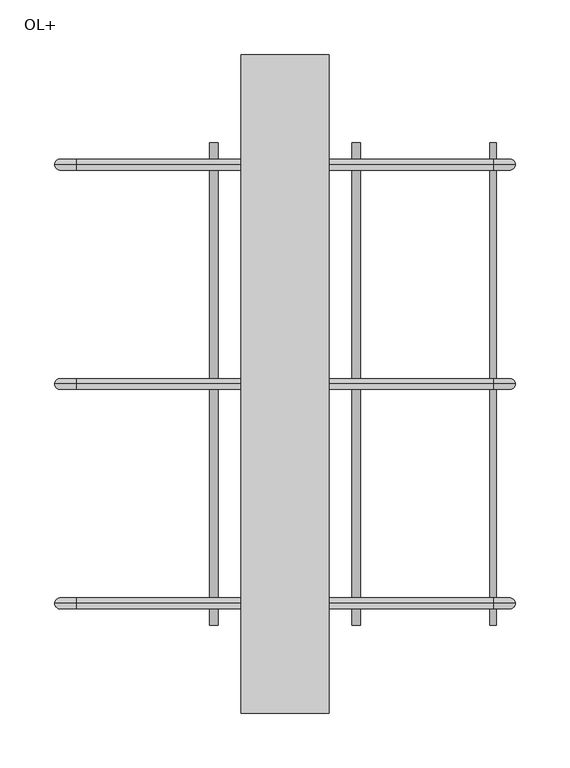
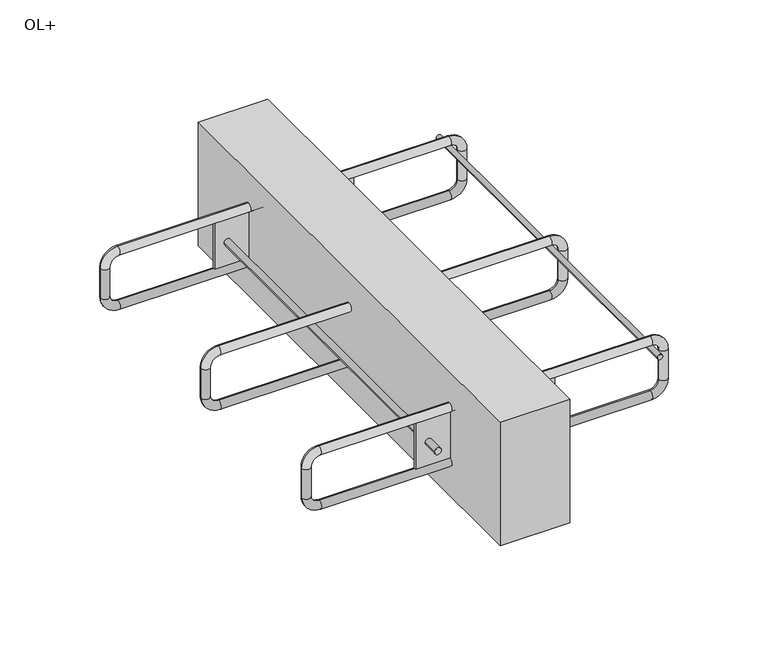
"""IFC4 building model written with IfcOpenShell, lengths in millimetres: fastener geometry, ACINOXplus_Typenreihe_UL-OL : OL+."""

import ifcopenshell
import ifcopenshell.guid

model = None  # the IFC model being written
_history = None  # IfcOwnerHistory: only IFC2X3 demands one
_inside = {}  # id of a spatial element -> (the spatial element, [elements in it])
_under = {}  # id of a project, library or spatial element -> (it, [spatial elements below it])
_declared = {}  # id of a project -> (the project, [libraries it declares])
_typed = {}  # id of a type object -> (the type object, [elements of that type])
_made_of = {}  # id of a material, layer set ... -> (it, [elements and type objects made of it])


def new_model(schema):
    """Start an empty IFC model of exactly this schema.

    Asked for "IFC4X3", IfcOpenShell would pick the latest addendum, in which some entities
    have other attributes; the version numbers below select the first issue.
    IFC2X3 requires an IfcOwnerHistory on every rooted entity: one is made here for all.
    """
    global model, _history
    if schema == "IFC4X3":
        model = ifcopenshell.file(schema_version=(4, 3, 0, 0))
    else:
        model = ifcopenshell.file(schema=schema)
    _inside.clear()
    _under.clear()
    _declared.clear()
    _typed.clear()
    _made_of.clear()
    _history = None
    if model.schema == "IFC2X3":
        org = make("IfcOrganization", Name="unknown")
        user = make(
            "IfcPersonAndOrganization",
            ThePerson=make("IfcPerson", FamilyName="unknown"),
            TheOrganization=org,
        )
        app = make(
            "IfcApplication",
            ApplicationDeveloper=org,
            Version="unknown",
            ApplicationFullName="unknown",
            ApplicationIdentifier="unknown",
        )
        _history = make(
            "IfcOwnerHistory",
            OwningUser=user,
            OwningApplication=app,
            ChangeAction="ADDED",
            CreationDate=0,
        )
    return model


def make(cls, **values):
    """One entity of the class cls with the attributes given. An attribute that is None is left unset."""
    return model.create_entity(
        cls, **{name: value for name, value in values.items() if value is not None}
    )


def rooted(cls, **values):
    """An entity with a GlobalId (a new one), such as an element, a storey or a relation."""
    return make(cls, GlobalId=ifcopenshell.guid.new(), OwnerHistory=_history, **values)


def si_unit(unit_type, name, prefix=None):
    """IfcSIUnit, for example si_unit("LENGTHUNIT", "METRE", prefix="MILLI")."""
    return make("IfcSIUnit", UnitType=unit_type, Prefix=prefix, Name=name)


def assignment(units):
    """IfcUnitAssignment: the units of a project."""
    return None if units is None else make("IfcUnitAssignment", Units=units)


def point(xyz):
    """IfcCartesianPoint."""
    return None if xyz is None else make("IfcCartesianPoint", Coordinates=xyz)


def direction(xyz):
    """IfcDirection."""
    return None if xyz is None else make("IfcDirection", DirectionRatios=xyz)


def frame(location, z_axis=None, x_axis=None):
    """IfcAxis2Placement3D, a coordinate frame: its origin and axes. An axis left out is left unset."""
    return make(
        "IfcAxis2Placement3D",
        Location=point(location),
        Axis=direction(z_axis),
        RefDirection=direction(x_axis),
    )


def frame_2d(location, x_axis=None):
    """IfcAxis2Placement2D, a coordinate frame in the plane: its origin and x axis."""
    return make(
        "IfcAxis2Placement2D", Location=point(location), RefDirection=direction(x_axis)
    )


def origin():
    """The frame at (0, 0, 0) with its axes left unset."""
    return frame((0.0, 0.0, 0.0))


def place(relative_to, where):
    """IfcLocalPlacement: puts the frame where relative to a parent placement (None: the world)."""
    return make(
        "IfcLocalPlacement", PlacementRelTo=relative_to, RelativePlacement=where
    )


def context(
    kind, dimensions, precision=None, world=None, true_north=None, identifier=None
):
    """IfcGeometricRepresentationContext, for example the 3D "Model" context."""
    return make(
        "IfcGeometricRepresentationContext",
        ContextIdentifier=identifier,
        ContextType=kind,
        CoordinateSpaceDimension=dimensions,
        Precision=precision,
        WorldCoordinateSystem=world,
        TrueNorth=true_north,
    )


def project(units=None, contexts=None):
    """IfcProject with its units and contexts."""
    return rooted(
        "IfcProject",
        Name="project",
        RepresentationContexts=contexts,
        UnitsInContext=assignment(units),
    )


def spatial(cls, under=None, at=None, **own):
    """A site, building, storey or space (cls), placed at a placement, below another one or the project."""
    s = rooted(cls, ObjectPlacement=at, **own)
    if under is not None:
        _under.setdefault(under.id(), (under, []))[1].append(s)
    return s


def polyline(points):
    """IfcPolyline through the points."""
    return make("IfcPolyline", Points=[point(p) for p in points])


def circle_curve(where, radius):
    """IfcCircle in the frame where."""
    return make("IfcCircle", Position=where, Radius=radius)


def ellipse_curve(where, semi_axis1, semi_axis2):
    """IfcEllipse in the frame where."""
    return make(
        "IfcEllipse", Position=where, SemiAxis1=semi_axis1, SemiAxis2=semi_axis2
    )


def trimmed(basis, trim1, trim2, sense, master):
    """IfcTrimmedCurve: the piece of a basis curve between two trims."""
    return make(
        "IfcTrimmedCurve",
        BasisCurve=basis,
        Trim1=trim1,
        Trim2=trim2,
        SenseAgreement=sense,
        MasterRepresentation=master,
    )


def segment(curve, same_sense, transition):
    """IfcCompositeCurveSegment."""
    return make(
        "IfcCompositeCurveSegment",
        Transition=transition,
        SameSense=same_sense,
        ParentCurve=curve,
    )


def composite_curve(segments, self_intersect=None):
    """IfcCompositeCurve: segments joined end to end."""
    return make("IfcCompositeCurve", Segments=segments, SelfIntersect=self_intersect)


def outline(outer, holes=None, kind="AREA"):
    """IfcArbitraryClosedProfileDef: a profile drawn as a closed curve; with holes, ...WithVoids."""
    if holes is None:
        return make("IfcArbitraryClosedProfileDef", ProfileType=kind, OuterCurve=outer)
    return make(
        "IfcArbitraryProfileDefWithVoids",
        ProfileType=kind,
        OuterCurve=outer,
        InnerCurves=holes,
    )


def extrude(swept, where, along, depth):
    """IfcExtrudedAreaSolid: the profile swept, set in the frame where, extruded along a direction by depth."""
    return make(
        "IfcExtrudedAreaSolid",
        SweptArea=swept,
        Position=where,
        ExtrudedDirection=direction(along),
        Depth=depth,
    )


def shape(context_of_items, identifier, shape_type, items):
    """IfcShapeRepresentation: the items that make up one representation, for example the "Body"."""
    return make(
        "IfcShapeRepresentation",
        ContextOfItems=context_of_items,
        RepresentationIdentifier=identifier,
        RepresentationType=shape_type,
        Items=items,
    )


def source(mapping_origin, context_of_items, identifier, shape_type, items):
    """IfcRepresentationMap: a shape defined once, which mapped items show again and again."""
    return make(
        "IfcRepresentationMap",
        MappingOrigin=mapping_origin,
        MappedRepresentation=shape(context_of_items, identifier, shape_type, items),
    )


def transform(
    local_origin,
    x_axis=None,
    y_axis=None,
    z_axis=None,
    scale=None,
    scale2=None,
    scale3=None,
    uniform=True,
):
    """IfcCartesianTransformationOperator3D, or its non-uniform kind. x_axis, y_axis, z_axis: its Axis1, 2, 3."""
    if uniform:
        return make(
            "IfcCartesianTransformationOperator3D",
            Axis1=direction(x_axis),
            Axis2=direction(y_axis),
            LocalOrigin=point(local_origin),
            Scale=scale,
            Axis3=direction(z_axis),
        )
    return make(
        "IfcCartesianTransformationOperator3DnonUniform",
        Axis1=direction(x_axis),
        Axis2=direction(y_axis),
        LocalOrigin=point(local_origin),
        Scale=scale,
        Axis3=direction(z_axis),
        Scale2=scale2,
        Scale3=scale3,
    )


def mapped(mapping_source, mapping_target):
    """IfcMappedItem: shows the shape of a source again, moved by a transform."""
    return make(
        "IfcMappedItem", MappingSource=mapping_source, MappingTarget=mapping_target
    )


def made_of(thing, what):
    """Note that an element or type object is made of a material, layer set ...; save() writes the relation."""
    if what is not None:
        _made_of.setdefault(what.id(), (what, []))[1].append(thing)
    return thing


def element(
    cls,
    number,
    at=None,
    inside=None,
    cuts=None,
    type_object=None,
    material=None,
    context=None,
    identifier="Body",
    shape_type=None,
    held_by="IfcProductDefinitionShape",
    body=None,
    shapes=None,
    **own,
):
    """One element of the class cls, such as IfcWall. Its Tag is "e" and its number.

    at: its placement. inside: the storey or other place that contains it. cuts: it is an
    opening in that element (IfcRelVoidsElement). A single representation is given by context,
    identifier, shape_type and body (its items); several are given by shapes. held_by: the class
    of the entity that holds the representations. save() writes the other relations.
    """
    e = rooted(cls, Tag="e%d" % number, ObjectPlacement=at, **own)
    if body is not None:
        shapes = [shape(context, identifier, shape_type, body)]
    if shapes is not None:
        e.Representation = make(held_by, Representations=shapes)
    if inside is not None:
        _inside.setdefault(inside.id(), (inside, []))[1].append(e)
    if cuts is not None:
        rooted(
            "IfcRelVoidsElement", RelatingBuildingElement=cuts, RelatedOpeningElement=e
        )
    if type_object is not None:
        _typed.setdefault(type_object.id(), (type_object, []))[1].append(e)
    return made_of(e, material)


def aggregate(whole, parts):
    """IfcRelAggregates: a whole, such as a stair, and the parts it consists of."""
    return rooted("IfcRelAggregates", RelatingObject=whole, RelatedObjects=parts)


def save(model, path):
    """Write the relations noted so far, then the file.

    IfcRelAggregates (storeys below a building ...), IfcRelContainedInSpatialStructure (elements
    in a storey), IfcRelDefinesByType, IfcRelAssociatesMaterial and IfcRelDeclares: one each for
    every whole, place, type object, material and project.
    """
    for whole, parts in _under.values():
        aggregate(whole, parts)
    for where, things in _inside.values():
        rooted(
            "IfcRelContainedInSpatialStructure",
            RelatedElements=things,
            RelatingStructure=where,
        )
    for kind, things in _typed.values():
        rooted("IfcRelDefinesByType", RelatedObjects=things, RelatingType=kind)
    for what, things in _made_of.values():
        rooted("IfcRelAssociatesMaterial", RelatedObjects=things, RelatingMaterial=what)
    for by, libraries in _declared.values():
        rooted("IfcRelDeclares", RelatingContext=by, RelatedDefinitions=libraries)
    model.write(path)


def cylinder_surface(at, radius):
    """IfcCylindricalSurface: all points at the distance radius from the z axis of the frame at."""
    return make("IfcCylindricalSurface", Position=at, Radius=radius)


def revolved_surface(curve, axis_point, axis_direction):
    """IfcSurfaceOfRevolution: the curve turned about the line through axis_point along axis_direction."""
    return make(
        "IfcSurfaceOfRevolution",
        SweptCurve=make("IfcArbitraryOpenProfileDef", ProfileType="CURVE", Curve=curve),
        AxisPosition=make("IfcAxis1Placement", Location=point(axis_point), Axis=direction(axis_direction)),
    )


def advanced_brep(points, edges, surfaces, faces):
    """IfcAdvancedBrep: a solid bounded by faces that lie on surfaces and meet in shared edges.

    An edge is (start, end): straight between two places in points (the first is 0);
    or (start, end, curve); or (start, end, curve, False) where it runs against its curve.
    A face is (place in surfaces, loops), or (place, loops, False) where it looks against
    its surface's normal. A loop lists edges by number (the first is 1), with a minus sign
    where the edge is run from its end to its start. The first loop is the outer one.
    """
    corners = [point(p) for p in points]
    vertices = [make("IfcVertexPoint", VertexGeometry=c) for c in corners]
    made = []
    for start, end, *more in edges:
        made.append(
            make(
                "IfcEdgeCurve",
                EdgeStart=vertices[start],
                EdgeEnd=vertices[end],
                EdgeGeometry=more[0] if more else make("IfcPolyline", Points=[corners[start], corners[end]]),
                SameSense=more[1] if len(more) > 1 else True,
            )
        )
    hull = []
    for where, loops, *sense in faces:
        bounds = []
        for j, loop in enumerate(loops):
            ring = [make("IfcOrientedEdge", EdgeElement=made[abs(k) - 1], Orientation=k > 0) for k in loop]
            bounds.append(
                make(
                    "IfcFaceOuterBound" if j == 0 else "IfcFaceBound",
                    Bound=make("IfcEdgeLoop", EdgeList=ring),
                    Orientation=True,
                )
            )
        hull.append(make("IfcAdvancedFace", Bounds=bounds, FaceSurface=surfaces[where], SameSense=sense[0] if sense else True))
    return make("IfcAdvancedBrep", Outer=make("IfcClosedShell", CfsFaces=hull))


def ol_8fdc4615(model_context):
    return source(origin(), model_context, "Body", "SolidModel", [
        extrude(outline(composite_curve([segment(trimmed(circle_curve(frame_2d((-50.0, 190.0)), 3.0), [point((-50.0, 193.0))], [point((-50.0, 187.0))], False, "CARTESIAN"), True, "CONTINUOUS"), segment(trimmed(circle_curve(frame_2d((-50.0, 190.0)), 3.0), [point((-50.0, 187.0))], [point((-50.0, 193.0))], False, "CARTESIAN"), True, "CONTINUOUS")], self_intersect=False)), frame((0.0, -220.0, 0.0), z_axis=(0.0, 1.0, 0.0), x_axis=(0.0, 0.0, 1.0)), (0.0, 0.0, 1.0), 440.0),
        extrude(outline(polyline([(40.0, 300.0), (40.0, -300.0), (-40.0, -300.0), (-40.0, 300.0), (40.0, 300.0)])), frame((0.0, 0.0, -150.0), z_axis=(0.0, 0.0, 1.0), x_axis=(1.0, 0.0, 0.0)), (0.0, 0.0, 1.0), 150.0),
        extrude(outline(composite_curve([segment(trimmed(circle_curve(frame_2d((-75.0, -65.0)), 4.0), [point((-75.0, -61.0))], [point((-75.0, -69.0))], False, "CARTESIAN"), True, "CONTINUOUS"), segment(trimmed(circle_curve(frame_2d((-75.0, -65.0)), 4.0), [point((-75.0, -69.0))], [point((-75.0, -61.0))], False, "CARTESIAN"), True, "CONTINUOUS")], self_intersect=False)), frame((0.0, -220.0, 0.0), z_axis=(0.0, 1.0, 0.0), x_axis=(0.0, 0.0, 1.0)), (0.0, 0.0, 1.0), 440.0),
        extrude(outline(composite_curve([segment(trimmed(circle_curve(frame_2d((-75.0, 65.0)), 4.0), [point((-75.0, 69.0))], [point((-75.0, 61.0))], False, "CARTESIAN"), True, "CONTINUOUS"), segment(trimmed(circle_curve(frame_2d((-75.0, 65.0)), 4.0), [point((-75.0, 61.0))], [point((-75.0, 69.0))], False, "CARTESIAN"), True, "CONTINUOUS")], self_intersect=False)), frame((0.0, -220.0, 0.0), z_axis=(0.0, 1.0, 0.0), x_axis=(0.0, 0.0, 1.0)), (0.0, 0.0, 1.0), 440.0),
        extrude(outline(polyline([(80.0, -198.5), (80.0, -201.5), (-80.0, -201.5), (-80.0, -198.5), (80.0, -198.5)])), frame((0.0, 0.0, -103.0), z_axis=(0.0, 0.0, 1.0), x_axis=(1.0, 0.0, 0.0)), (0.0, 0.0, 1.0), 56.0),
        extrude(outline(polyline([(80.0, 201.5), (80.0, 198.5), (-80.0, 198.5), (-80.0, 201.5), (80.0, 201.5)])), frame((0.0, 0.0, -103.0), z_axis=(0.0, 0.0, 1.0), x_axis=(1.0, 0.0, 0.0)), (0.0, 0.0, 1.0), 56.0),
        advanced_brep(
        [(190.0, 0.0, -47.0), (190.0, 0.0, -37.0), (-190.0, 0.0, -37.0), (-190.0, 0.0, -47.0), (-200.0, 0.0, -57.0), (-210.0, 0.0, -57.0), (-210.0, 0.0, -93.0), (-200.0, 0.0, -93.0), (-190.0, 0.0, -103.0), (-190.0, 0.0, -113.0), (190.0, 0.0, -113.0), (190.0, 0.0, -103.0), (200.0, 0.0, -93.0), (210.0, 0.0, -93.0), (210.0, 0.0, -57.0), (200.0, 0.0, -57.0)],
        [
            (0, 1, circle_curve(frame((190.0, 0.0, -42.0), z_axis=(-1.0, 0.0, 0.0), x_axis=(0.0, 0.0, -1.0)), 5.0)),
            (1, 2),
            (2, 3, circle_curve(frame((-190.0, 0.0, -42.0), z_axis=(1.0, 0.0, 0.0), x_axis=(0.0, 0.0, -1.0)), 5.0)),
            (3, 0),
            (1, 0, circle_curve(frame((190.0, 0.0, -42.0), z_axis=(-1.0, 0.0, 0.0), x_axis=(0.0, 0.0, -1.0)), 5.0)),
            (3, 2, circle_curve(frame((-190.0, 0.0, -42.0), z_axis=(1.0, 0.0, 0.0), x_axis=(0.0, 0.0, -1.0)), 5.0)),
            (4, 3, circle_curve(frame((-190.0, 0.0, -57.0), z_axis=(0.0, 1.0, 0.0), x_axis=(0.0, 0.0, 1.0)), 10.0)),
            (2, 5, circle_curve(frame((-190.0, 0.0, -57.0), z_axis=(0.0, -1.0, 0.0), x_axis=(0.0, 0.0, 1.0)), 20.0)),
            (5, 4, circle_curve(frame((-205.0, 0.0, -57.0), z_axis=(0.0, 0.0, 1.0), x_axis=(1.0, 0.0, 0.0)), 5.0)),
            (4, 5, circle_curve(frame((-205.0, 0.0, -57.0), z_axis=(0.0, 0.0, 1.0), x_axis=(1.0, 0.0, 0.0)), 5.0)),
            (5, 6),
            (6, 7, circle_curve(frame((-205.0, 0.0, -93.0), z_axis=(0.0, 0.0, 1.0), x_axis=(1.0, 0.0, 0.0)), 5.0)),
            (7, 4),
            (7, 6, circle_curve(frame((-205.0, 0.0, -93.0), z_axis=(0.0, 0.0, 1.0), x_axis=(1.0, 0.0, 0.0)), 5.0)),
            (8, 7, circle_curve(frame((-190.0, 0.0, -93.0), z_axis=(0.0, 1.0, 0.0), x_axis=(-1.0, 0.0, 0.0)), 10.0)),
            (6, 9, circle_curve(frame((-190.0, 0.0, -93.0), z_axis=(0.0, -1.0, 0.0), x_axis=(-1.0, 0.0, 0.0)), 20.0)),
            (9, 8, circle_curve(frame((-190.0, 0.0, -108.0), z_axis=(-1.0, 0.0, 0.0), x_axis=(0.0, 0.0, 1.0)), 5.0)),
            (8, 9, circle_curve(frame((-190.0, 0.0, -108.0), z_axis=(-1.0, 0.0, 0.0), x_axis=(0.0, 0.0, 1.0)), 5.0)),
            (9, 10),
            (10, 11, circle_curve(frame((190.0, 0.0, -108.0), z_axis=(-1.0, 0.0, 0.0), x_axis=(0.0, 0.0, 1.0)), 5.0)),
            (11, 8),
            (11, 10, circle_curve(frame((190.0, 0.0, -108.0), z_axis=(-1.0, 0.0, 0.0), x_axis=(0.0, 0.0, 1.0)), 5.0)),
            (12, 11, circle_curve(frame((190.0, 0.0, -93.0), z_axis=(0.0, 1.0, 0.0), x_axis=(0.0, 0.0, -1.0)), 10.0)),
            (10, 13, circle_curve(frame((190.0, 0.0, -93.0), z_axis=(0.0, -1.0, 0.0), x_axis=(0.0, 0.0, -1.0)), 20.0)),
            (13, 12, circle_curve(frame((205.0, 0.0, -93.0), z_axis=(0.0, 0.0, -1.0), x_axis=(-1.0, 0.0, 0.0)), 5.0)),
            (12, 13, circle_curve(frame((205.0, 0.0, -93.0), z_axis=(0.0, 0.0, -1.0), x_axis=(-1.0, 0.0, 0.0)), 5.0)),
            (13, 14),
            (14, 15, circle_curve(frame((205.0, 0.0, -57.0), z_axis=(0.0, 0.0, -1.0), x_axis=(-1.0, 0.0, 0.0)), 5.0)),
            (15, 12),
            (15, 14, circle_curve(frame((205.0, 0.0, -57.0), z_axis=(0.0, 0.0, -1.0), x_axis=(-1.0, 0.0, 0.0)), 5.0)),
            (0, 15, circle_curve(frame((190.0, 0.0, -57.0), z_axis=(0.0, 1.0, 0.0), x_axis=(1.0, 0.0, 0.0)), 10.0)),
            (14, 1, circle_curve(frame((190.0, 0.0, -57.0), z_axis=(0.0, -1.0, 0.0), x_axis=(1.0, 0.0, 0.0)), 20.0)),
        ],
        [
            cylinder_surface(frame((190.0, 0.0, -42.0), z_axis=(1.0, 0.0, 0.0), x_axis=(0.0, 0.0, -1.0)), 5.0),
            revolved_surface(trimmed(ellipse_curve(frame((-190.0, 0.0, -42.0), z_axis=(1.0, 0.0, 0.0), x_axis=(0.0, 0.0, -1.0)), 5.0, 5.0), [point((-190.0, 0.0, -37.0))], [point((-190.0, 0.0, -47.0))], True, "CARTESIAN"), (-190.0, 0.0, -57.0), (0.0, -1.0, 0.0)),
            revolved_surface(trimmed(ellipse_curve(frame((-190.0, 0.0, -42.0), z_axis=(1.0, 0.0, 0.0), x_axis=(0.0, 0.0, -1.0)), 5.0, 5.0), [point((-190.0, 0.0, -47.0))], [point((-190.0, 0.0, -37.0))], True, "CARTESIAN"), (-190.0, 0.0, -57.0), (0.0, -1.0, 0.0)),
            cylinder_surface(frame((-205.0, 0.0, -57.0), z_axis=(0.0, 0.0, 1.0), x_axis=(1.0, 0.0, 0.0)), 5.0),
            revolved_surface(trimmed(ellipse_curve(frame((-205.0, 0.0, -93.0), z_axis=(0.0, 0.0, 1.0), x_axis=(1.0, 0.0, 0.0)), 5.0, 5.0), [point((-210.0, 0.0, -93.0))], [point((-200.0, 0.0, -93.0))], True, "CARTESIAN"), (-190.0, 0.0, -93.0), (0.0, -1.0, 0.0)),
            revolved_surface(trimmed(ellipse_curve(frame((-205.0, 0.0, -93.0), z_axis=(0.0, 0.0, 1.0), x_axis=(1.0, 0.0, 0.0)), 5.0, 5.0), [point((-200.0, 0.0, -93.0))], [point((-210.0, 0.0, -93.0))], True, "CARTESIAN"), (-190.0, 0.0, -93.0), (0.0, -1.0, 0.0)),
            cylinder_surface(frame((-190.0, 0.0, -108.0), z_axis=(-1.0, 0.0, 0.0), x_axis=(0.0, 0.0, 1.0)), 5.0),
            revolved_surface(trimmed(ellipse_curve(frame((190.0, 0.0, -108.0), z_axis=(-1.0, 0.0, 0.0), x_axis=(0.0, 0.0, 1.0)), 5.0, 5.0), [point((190.0, 0.0, -113.0))], [point((190.0, 0.0, -103.0))], True, "CARTESIAN"), (190.0, 0.0, -93.0), (0.0, -1.0, 0.0)),
            revolved_surface(trimmed(ellipse_curve(frame((190.0, 0.0, -108.0), z_axis=(-1.0, 0.0, 0.0), x_axis=(0.0, 0.0, 1.0)), 5.0, 5.0), [point((190.0, 0.0, -103.0))], [point((190.0, 0.0, -113.0))], True, "CARTESIAN"), (190.0, 0.0, -93.0), (0.0, -1.0, 0.0)),
            cylinder_surface(frame((205.0, 0.0, -93.0), z_axis=(0.0, 0.0, -1.0), x_axis=(-1.0, 0.0, 0.0)), 5.0),
            revolved_surface(trimmed(ellipse_curve(frame((205.0, 0.0, -57.0), z_axis=(0.0, 0.0, -1.0), x_axis=(-1.0, 0.0, 0.0)), 5.0, 5.0), [point((210.0, 0.0, -57.0))], [point((200.0, 0.0, -57.0))], True, "CARTESIAN"), (190.0, 0.0, -57.0), (0.0, -1.0, 0.0)),
            revolved_surface(trimmed(ellipse_curve(frame((205.0, 0.0, -57.0), z_axis=(0.0, 0.0, -1.0), x_axis=(-1.0, 0.0, 0.0)), 5.0, 5.0), [point((200.0, 0.0, -57.0))], [point((210.0, 0.0, -57.0))], True, "CARTESIAN"), (190.0, 0.0, -57.0), (0.0, -1.0, 0.0)),
        ],
        [
            (0, [[1, 2, 3, 4]]),
            (0, [[5, -4, 6, -2]]),
            (1, [[7, -3, 8, 9]]),
            (2, [[-8, -6, -7, 10]]),
            (3, [[-9, 11, 12, 13]]),
            (3, [[-10, -13, 14, -11]]),
            (4, [[15, -12, 16, 17]]),
            (5, [[-16, -14, -15, 18]]),
            (6, [[-17, 19, 20, 21]]),
            (6, [[-18, -21, 22, -19]]),
            (7, [[23, -20, 24, 25]]),
            (8, [[-24, -22, -23, 26]]),
            (9, [[-25, 27, 28, 29]]),
            (9, [[-26, -29, 30, -27]]),
            (10, [[31, -28, 32, -1]]),
            (11, [[-32, -30, -31, -5]]),
        ],
    ),
        advanced_brep(
        [(190.0, 200.0, -47.0), (190.0, 200.0, -37.0), (-190.0, 200.0, -37.0), (-190.0, 200.0, -47.0), (-200.0, 200.0, -57.0), (-210.0, 200.0, -57.0), (-210.0, 200.0, -93.0), (-200.0, 200.0, -93.0), (-190.0, 200.0, -103.0), (-190.0, 200.0, -113.0), (190.0, 200.0, -113.0), (190.0, 200.0, -103.0), (200.0, 200.0, -93.0), (210.0, 200.0, -93.0), (210.0, 200.0, -57.0), (200.0, 200.0, -57.0)],
        [
            (0, 1, circle_curve(frame((190.0, 200.0, -42.0), z_axis=(-1.0, 0.0, 0.0), x_axis=(0.0, 0.0, -1.0)), 5.0)),
            (1, 2),
            (2, 3, circle_curve(frame((-190.0, 200.0, -42.0), z_axis=(1.0, 0.0, 0.0), x_axis=(0.0, 0.0, -1.0)), 5.0)),
            (3, 0),
            (1, 0, circle_curve(frame((190.0, 200.0, -42.0), z_axis=(-1.0, 0.0, 0.0), x_axis=(0.0, 0.0, -1.0)), 5.0)),
            (3, 2, circle_curve(frame((-190.0, 200.0, -42.0), z_axis=(1.0, 0.0, 0.0), x_axis=(0.0, 0.0, -1.0)), 5.0)),
            (4, 3, circle_curve(frame((-190.0, 200.0, -57.0), z_axis=(0.0, 1.0, 0.0), x_axis=(0.0, 0.0, 1.0)), 10.0)),
            (2, 5, circle_curve(frame((-190.0, 200.0, -57.0), z_axis=(0.0, -1.0, 0.0), x_axis=(0.0, 0.0, 1.0)), 20.0)),
            (5, 4, circle_curve(frame((-205.0, 200.0, -57.0), z_axis=(0.0, 0.0, 1.0), x_axis=(1.0, 0.0, 0.0)), 5.0)),
            (4, 5, circle_curve(frame((-205.0, 200.0, -57.0), z_axis=(0.0, 0.0, 1.0), x_axis=(1.0, 0.0, 0.0)), 5.0)),
            (5, 6),
            (6, 7, circle_curve(frame((-205.0, 200.0, -93.0), z_axis=(0.0, 0.0, 1.0), x_axis=(1.0, 0.0, 0.0)), 5.0)),
            (7, 4),
            (7, 6, circle_curve(frame((-205.0, 200.0, -93.0), z_axis=(0.0, 0.0, 1.0), x_axis=(1.0, 0.0, 0.0)), 5.0)),
            (8, 7, circle_curve(frame((-190.0, 200.0, -93.0), z_axis=(0.0, 1.0, 0.0), x_axis=(-1.0, 0.0, 0.0)), 10.0)),
            (6, 9, circle_curve(frame((-190.0, 200.0, -93.0), z_axis=(0.0, -1.0, 0.0), x_axis=(-1.0, 0.0, 0.0)), 20.0)),
            (9, 8, circle_curve(frame((-190.0, 200.0, -108.0), z_axis=(-1.0, 0.0, 0.0), x_axis=(0.0, 0.0, 1.0)), 5.0)),
            (8, 9, circle_curve(frame((-190.0, 200.0, -108.0), z_axis=(-1.0, 0.0, 0.0), x_axis=(0.0, 0.0, 1.0)), 5.0)),
            (9, 10),
            (10, 11, circle_curve(frame((190.0, 200.0, -108.0), z_axis=(-1.0, 0.0, 0.0), x_axis=(0.0, 0.0, 1.0)), 5.0)),
            (11, 8),
            (11, 10, circle_curve(frame((190.0, 200.0, -108.0), z_axis=(-1.0, 0.0, 0.0), x_axis=(0.0, 0.0, 1.0)), 5.0)),
            (12, 11, circle_curve(frame((190.0, 200.0, -93.0), z_axis=(0.0, 1.0, 0.0), x_axis=(0.0, 0.0, -1.0)), 10.0)),
            (10, 13, circle_curve(frame((190.0, 200.0, -93.0), z_axis=(0.0, -1.0, 0.0), x_axis=(0.0, 0.0, -1.0)), 20.0)),
            (13, 12, circle_curve(frame((205.0, 200.0, -93.0), z_axis=(0.0, 0.0, -1.0), x_axis=(-1.0, 0.0, 0.0)), 5.0)),
            (12, 13, circle_curve(frame((205.0, 200.0, -93.0), z_axis=(0.0, 0.0, -1.0), x_axis=(-1.0, 0.0, 0.0)), 5.0)),
            (13, 14),
            (14, 15, circle_curve(frame((205.0, 200.0, -57.0), z_axis=(0.0, 0.0, -1.0), x_axis=(-1.0, 0.0, 0.0)), 5.0)),
            (15, 12),
            (15, 14, circle_curve(frame((205.0, 200.0, -57.0), z_axis=(0.0, 0.0, -1.0), x_axis=(-1.0, 0.0, 0.0)), 5.0)),
            (0, 15, circle_curve(frame((190.0, 200.0, -57.0), z_axis=(0.0, 1.0, 0.0), x_axis=(1.0, 0.0, 0.0)), 10.0)),
            (14, 1, circle_curve(frame((190.0, 200.0, -57.0), z_axis=(0.0, -1.0, 0.0), x_axis=(1.0, 0.0, 0.0)), 20.0)),
        ],
        [
            cylinder_surface(frame((190.0, 200.0, -42.0), z_axis=(1.0, 0.0, 0.0), x_axis=(0.0, 0.0, -1.0)), 5.0),
            revolved_surface(trimmed(ellipse_curve(frame((-190.0, 200.0, -42.0), z_axis=(1.0, 0.0, 0.0), x_axis=(0.0, 0.0, -1.0)), 5.0, 5.0), [point((-190.0, 200.0, -37.0))], [point((-190.0, 200.0, -47.0))], True, "CARTESIAN"), (-190.0, 200.0, -57.0), (0.0, -1.0, 0.0)),
            revolved_surface(trimmed(ellipse_curve(frame((-190.0, 200.0, -42.0), z_axis=(1.0, 0.0, 0.0), x_axis=(0.0, 0.0, -1.0)), 5.0, 5.0), [point((-190.0, 200.0, -47.0))], [point((-190.0, 200.0, -37.0))], True, "CARTESIAN"), (-190.0, 200.0, -57.0), (0.0, -1.0, 0.0)),
            cylinder_surface(frame((-205.0, 200.0, -57.0), z_axis=(0.0, 0.0, 1.0), x_axis=(1.0, 0.0, 0.0)), 5.0),
            revolved_surface(trimmed(ellipse_curve(frame((-205.0, 200.0, -93.0), z_axis=(0.0, 0.0, 1.0), x_axis=(1.0, 0.0, 0.0)), 5.0, 5.0), [point((-210.0, 200.0, -93.0))], [point((-200.0, 200.0, -93.0))], True, "CARTESIAN"), (-190.0, 200.0, -93.0), (0.0, -1.0, 0.0)),
            revolved_surface(trimmed(ellipse_curve(frame((-205.0, 200.0, -93.0), z_axis=(0.0, 0.0, 1.0), x_axis=(1.0, 0.0, 0.0)), 5.0, 5.0), [point((-200.0, 200.0, -93.0))], [point((-210.0, 200.0, -93.0))], True, "CARTESIAN"), (-190.0, 200.0, -93.0), (0.0, -1.0, 0.0)),
            cylinder_surface(frame((-190.0, 200.0, -108.0), z_axis=(-1.0, 0.0, 0.0), x_axis=(0.0, 0.0, 1.0)), 5.0),
            revolved_surface(trimmed(ellipse_curve(frame((190.0, 200.0, -108.0), z_axis=(-1.0, 0.0, 0.0), x_axis=(0.0, 0.0, 1.0)), 5.0, 5.0), [point((190.0, 200.0, -113.0))], [point((190.0, 200.0, -103.0))], True, "CARTESIAN"), (190.0, 200.0, -93.0), (0.0, -1.0, 0.0)),
            revolved_surface(trimmed(ellipse_curve(frame((190.0, 200.0, -108.0), z_axis=(-1.0, 0.0, 0.0), x_axis=(0.0, 0.0, 1.0)), 5.0, 5.0), [point((190.0, 200.0, -103.0))], [point((190.0, 200.0, -113.0))], True, "CARTESIAN"), (190.0, 200.0, -93.0), (0.0, -1.0, 0.0)),
            cylinder_surface(frame((205.0, 200.0, -93.0), z_axis=(0.0, 0.0, -1.0), x_axis=(-1.0, 0.0, 0.0)), 5.0),
            revolved_surface(trimmed(ellipse_curve(frame((205.0, 200.0, -57.0), z_axis=(0.0, 0.0, -1.0), x_axis=(-1.0, 0.0, 0.0)), 5.0, 5.0), [point((210.0, 200.0, -57.0))], [point((200.0, 200.0, -57.0))], True, "CARTESIAN"), (190.0, 200.0, -57.0), (0.0, -1.0, 0.0)),
            revolved_surface(trimmed(ellipse_curve(frame((205.0, 200.0, -57.0), z_axis=(0.0, 0.0, -1.0), x_axis=(-1.0, 0.0, 0.0)), 5.0, 5.0), [point((200.0, 200.0, -57.0))], [point((210.0, 200.0, -57.0))], True, "CARTESIAN"), (190.0, 200.0, -57.0), (0.0, -1.0, 0.0)),
        ],
        [
            (0, [[1, 2, 3, 4]]),
            (0, [[5, -4, 6, -2]]),
            (1, [[7, -3, 8, 9]]),
            (2, [[-8, -6, -7, 10]]),
            (3, [[-9, 11, 12, 13]]),
            (3, [[-10, -13, 14, -11]]),
            (4, [[15, -12, 16, 17]]),
            (5, [[-16, -14, -15, 18]]),
            (6, [[-17, 19, 20, 21]]),
            (6, [[-18, -21, 22, -19]]),
            (7, [[23, -20, 24, 25]]),
            (8, [[-24, -22, -23, 26]]),
            (9, [[-25, 27, 28, 29]]),
            (9, [[-26, -29, 30, -27]]),
            (10, [[31, -28, 32, -1]]),
            (11, [[-32, -30, -31, -5]]),
        ],
    ),
        advanced_brep(
        [(190.0, -200.0, -47.0), (190.0, -200.0, -37.0), (-190.0, -200.0, -37.0), (-190.0, -200.0, -47.0), (-200.0, -200.0, -57.0), (-210.0, -200.0, -57.0), (-210.0, -200.0, -93.0), (-200.0, -200.0, -93.0), (-190.0, -200.0, -103.0), (-190.0, -200.0, -113.0), (190.0, -200.0, -113.0), (190.0, -200.0, -103.0), (200.0, -200.0, -93.0), (210.0, -200.0, -93.0), (210.0, -200.0, -57.0), (200.0, -200.0, -57.0)],
        [
            (0, 1, circle_curve(frame((190.0, -200.0, -42.0), z_axis=(-1.0, 0.0, 0.0), x_axis=(0.0, 0.0, -1.0)), 5.0)),
            (1, 2),
            (2, 3, circle_curve(frame((-190.0, -200.0, -42.0), z_axis=(1.0, 0.0, 0.0), x_axis=(0.0, 0.0, -1.0)), 5.0)),
            (3, 0),
            (1, 0, circle_curve(frame((190.0, -200.0, -42.0), z_axis=(-1.0, 0.0, 0.0), x_axis=(0.0, 0.0, -1.0)), 5.0)),
            (3, 2, circle_curve(frame((-190.0, -200.0, -42.0), z_axis=(1.0, 0.0, 0.0), x_axis=(0.0, 0.0, -1.0)), 5.0)),
            (4, 3, circle_curve(frame((-190.0, -200.0, -57.0), z_axis=(0.0, 1.0, 0.0), x_axis=(0.0, 0.0, 1.0)), 10.0)),
            (2, 5, circle_curve(frame((-190.0, -200.0, -57.0), z_axis=(0.0, -1.0, 0.0), x_axis=(0.0, 0.0, 1.0)), 20.0)),
            (5, 4, circle_curve(frame((-205.0, -200.0, -57.0), z_axis=(0.0, 0.0, 1.0), x_axis=(1.0, 0.0, 0.0)), 5.0)),
            (4, 5, circle_curve(frame((-205.0, -200.0, -57.0), z_axis=(0.0, 0.0, 1.0), x_axis=(1.0, 0.0, 0.0)), 5.0)),
            (5, 6),
            (6, 7, circle_curve(frame((-205.0, -200.0, -93.0), z_axis=(0.0, 0.0, 1.0), x_axis=(1.0, 0.0, 0.0)), 5.0)),
            (7, 4),
            (7, 6, circle_curve(frame((-205.0, -200.0, -93.0), z_axis=(0.0, 0.0, 1.0), x_axis=(1.0, 0.0, 0.0)), 5.0)),
            (8, 7, circle_curve(frame((-190.0, -200.0, -93.0), z_axis=(0.0, 1.0, 0.0), x_axis=(-1.0, 0.0, 0.0)), 10.0)),
            (6, 9, circle_curve(frame((-190.0, -200.0, -93.0), z_axis=(0.0, -1.0, 0.0), x_axis=(-1.0, 0.0, 0.0)), 20.0)),
            (9, 8, circle_curve(frame((-190.0, -200.0, -108.0), z_axis=(-1.0, 0.0, 0.0), x_axis=(0.0, 0.0, 1.0)), 5.0)),
            (8, 9, circle_curve(frame((-190.0, -200.0, -108.0), z_axis=(-1.0, 0.0, 0.0), x_axis=(0.0, 0.0, 1.0)), 5.0)),
            (9, 10),
            (10, 11, circle_curve(frame((190.0, -200.0, -108.0), z_axis=(-1.0, 0.0, 0.0), x_axis=(0.0, 0.0, 1.0)), 5.0)),
            (11, 8),
            (11, 10, circle_curve(frame((190.0, -200.0, -108.0), z_axis=(-1.0, 0.0, 0.0), x_axis=(0.0, 0.0, 1.0)), 5.0)),
            (12, 11, circle_curve(frame((190.0, -200.0, -93.0), z_axis=(0.0, 1.0, 0.0), x_axis=(0.0, 0.0, -1.0)), 10.0)),
            (10, 13, circle_curve(frame((190.0, -200.0, -93.0), z_axis=(0.0, -1.0, 0.0), x_axis=(0.0, 0.0, -1.0)), 20.0)),
            (13, 12, circle_curve(frame((205.0, -200.0, -93.0), z_axis=(0.0, 0.0, -1.0), x_axis=(-1.0, 0.0, 0.0)), 5.0)),
            (12, 13, circle_curve(frame((205.0, -200.0, -93.0), z_axis=(0.0, 0.0, -1.0), x_axis=(-1.0, 0.0, 0.0)), 5.0)),
            (13, 14),
            (14, 15, circle_curve(frame((205.0, -200.0, -57.0), z_axis=(0.0, 0.0, -1.0), x_axis=(-1.0, 0.0, 0.0)), 5.0)),
            (15, 12),
            (15, 14, circle_curve(frame((205.0, -200.0, -57.0), z_axis=(0.0, 0.0, -1.0), x_axis=(-1.0, 0.0, 0.0)), 5.0)),
            (0, 15, circle_curve(frame((190.0, -200.0, -57.0), z_axis=(0.0, 1.0, 0.0), x_axis=(1.0, 0.0, 0.0)), 10.0)),
            (14, 1, circle_curve(frame((190.0, -200.0, -57.0), z_axis=(0.0, -1.0, 0.0), x_axis=(1.0, 0.0, 0.0)), 20.0)),
        ],
        [
            cylinder_surface(frame((190.0, -200.0, -42.0), z_axis=(1.0, 0.0, 0.0), x_axis=(0.0, 0.0, -1.0)), 5.0),
            revolved_surface(trimmed(ellipse_curve(frame((-190.0, -200.0, -42.0), z_axis=(1.0, 0.0, 0.0), x_axis=(0.0, 0.0, -1.0)), 5.0, 5.0), [point((-190.0, -200.0, -37.0))], [point((-190.0, -200.0, -47.0))], True, "CARTESIAN"), (-190.0, -200.0, -57.0), (0.0, -1.0, 0.0)),
            revolved_surface(trimmed(ellipse_curve(frame((-190.0, -200.0, -42.0), z_axis=(1.0, 0.0, 0.0), x_axis=(0.0, 0.0, -1.0)), 5.0, 5.0), [point((-190.0, -200.0, -47.0))], [point((-190.0, -200.0, -37.0))], True, "CARTESIAN"), (-190.0, -200.0, -57.0), (0.0, -1.0, 0.0)),
            cylinder_surface(frame((-205.0, -200.0, -57.0), z_axis=(0.0, 0.0, 1.0), x_axis=(1.0, 0.0, 0.0)), 5.0),
            revolved_surface(trimmed(ellipse_curve(frame((-205.0, -200.0, -93.0), z_axis=(0.0, 0.0, 1.0), x_axis=(1.0, 0.0, 0.0)), 5.0, 5.0), [point((-210.0, -200.0, -93.0))], [point((-200.0, -200.0, -93.0))], True, "CARTESIAN"), (-190.0, -200.0, -93.0), (0.0, -1.0, 0.0)),
            revolved_surface(trimmed(ellipse_curve(frame((-205.0, -200.0, -93.0), z_axis=(0.0, 0.0, 1.0), x_axis=(1.0, 0.0, 0.0)), 5.0, 5.0), [point((-200.0, -200.0, -93.0))], [point((-210.0, -200.0, -93.0))], True, "CARTESIAN"), (-190.0, -200.0, -93.0), (0.0, -1.0, 0.0)),
            cylinder_surface(frame((-190.0, -200.0, -108.0), z_axis=(-1.0, 0.0, 0.0), x_axis=(0.0, 0.0, 1.0)), 5.0),
            revolved_surface(trimmed(ellipse_curve(frame((190.0, -200.0, -108.0), z_axis=(-1.0, 0.0, 0.0), x_axis=(0.0, 0.0, 1.0)), 5.0, 5.0), [point((190.0, -200.0, -113.0))], [point((190.0, -200.0, -103.0))], True, "CARTESIAN"), (190.0, -200.0, -93.0), (0.0, -1.0, 0.0)),
            revolved_surface(trimmed(ellipse_curve(frame((190.0, -200.0, -108.0), z_axis=(-1.0, 0.0, 0.0), x_axis=(0.0, 0.0, 1.0)), 5.0, 5.0), [point((190.0, -200.0, -103.0))], [point((190.0, -200.0, -113.0))], True, "CARTESIAN"), (190.0, -200.0, -93.0), (0.0, -1.0, 0.0)),
            cylinder_surface(frame((205.0, -200.0, -93.0), z_axis=(0.0, 0.0, -1.0), x_axis=(-1.0, 0.0, 0.0)), 5.0),
            revolved_surface(trimmed(ellipse_curve(frame((205.0, -200.0, -57.0), z_axis=(0.0, 0.0, -1.0), x_axis=(-1.0, 0.0, 0.0)), 5.0, 5.0), [point((210.0, -200.0, -57.0))], [point((200.0, -200.0, -57.0))], True, "CARTESIAN"), (190.0, -200.0, -57.0), (0.0, -1.0, 0.0)),
            revolved_surface(trimmed(ellipse_curve(frame((205.0, -200.0, -57.0), z_axis=(0.0, 0.0, -1.0), x_axis=(-1.0, 0.0, 0.0)), 5.0, 5.0), [point((200.0, -200.0, -57.0))], [point((210.0, -200.0, -57.0))], True, "CARTESIAN"), (190.0, -200.0, -57.0), (0.0, -1.0, 0.0)),
        ],
        [
            (0, [[1, 2, 3, 4]]),
            (0, [[5, -4, 6, -2]]),
            (1, [[7, -3, 8, 9]]),
            (2, [[-8, -6, -7, 10]]),
            (3, [[-9, 11, 12, 13]]),
            (3, [[-10, -13, 14, -11]]),
            (4, [[15, -12, 16, 17]]),
            (5, [[-16, -14, -15, 18]]),
            (6, [[-17, 19, 20, 21]]),
            (6, [[-18, -21, 22, -19]]),
            (7, [[23, -20, 24, 25]]),
            (8, [[-24, -22, -23, 26]]),
            (9, [[-25, 27, 28, 29]]),
            (9, [[-26, -29, 30, -27]]),
            (10, [[31, -28, 32, -1]]),
            (11, [[-32, -30, -31, -5]]),
        ],
    ),
    ])


if __name__ == "__main__":
    model = new_model("IFC4")
    model_context = context("Model", 3, world=origin())
    ifc_project = project(units=[si_unit("LENGTHUNIT", "METRE", prefix="MILLI")], contexts=[model_context])
    site = spatial("IfcSite", under=ifc_project)
    building = spatial("IfcBuilding", under=site)
    placement = place(None, origin())
    ol_shape = ol_8fdc4615(model_context)
    element("IfcFastener", 1, ObjectType="ACINOXplus_Typenreihe_UL-OL : OL+", at=placement, inside=building, context=model_context, shape_type="MappedRepresentation", body=[
        mapped(ol_shape, transform((0.0, 0.0, 0.0), x_axis=(1.0, 0.0, 0.0), y_axis=(0.0, 1.0, 0.0), z_axis=(0.0, 0.0, 1.0))),
    ])
    save(model, "model.ifc")
